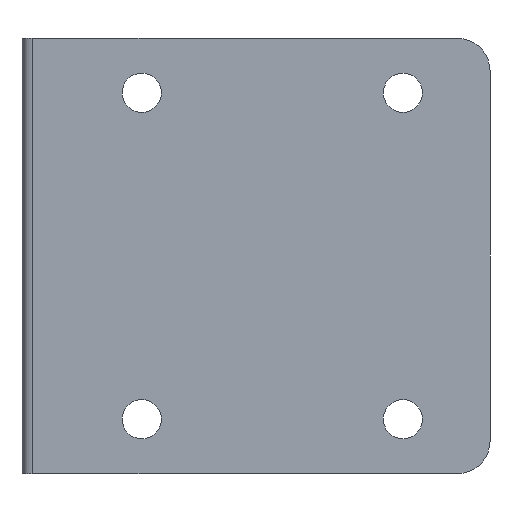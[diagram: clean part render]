
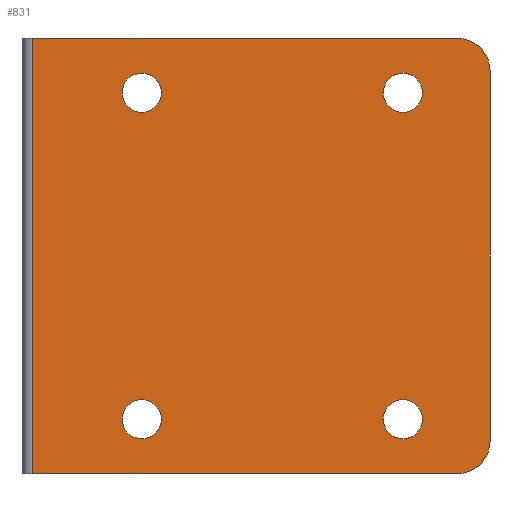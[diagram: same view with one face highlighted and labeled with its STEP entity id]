
A CAD part, front view. The second image highlights one B-rep face of the part: STEP entity #831.
In plain terms, the highlighted planar face has unit normal (0, -1, 0).
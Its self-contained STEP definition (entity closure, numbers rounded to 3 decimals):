
#1 = FACE_BOUND ( 'NONE', #753, .T. ) ;
#3 = DIRECTION ( 'NONE',  ( -1., 0., 0. ) ) ;
#23 = ORIENTED_EDGE ( 'NONE', *, *, #1183, .T. ) ;
#29 = CARTESIAN_POINT ( 'NONE',  ( -21.5, 0., 20. ) ) ;
#66 = ORIENTED_EDGE ( 'NONE', *, *, #839, .T. ) ;
#68 = EDGE_CURVE ( 'NONE', #667, #1091, #334, .T. ) ;
#72 = DIRECTION ( 'NONE',  ( 0., -1., 0. ) ) ;
#77 = CARTESIAN_POINT ( 'NONE',  ( 18.5, 0., -17. ) ) ;
#82 = CARTESIAN_POINT ( 'NONE',  ( -20.5, 0., 20. ) ) ;
#86 = EDGE_CURVE ( 'NONE', #329, #1015, #1115, .T. ) ;
#87 = CARTESIAN_POINT ( 'NONE',  ( -10.5, 0., -16.8 ) ) ;
#91 = EDGE_LOOP ( 'NONE', ( #419, #526 ) ) ;
#101 = DIRECTION ( 'NONE',  ( 0., 1., 0. ) ) ;
#110 = VECTOR ( 'NONE', #444, 1000. ) ;
#113 = CARTESIAN_POINT ( 'NONE',  ( 21.5, 0., -17. ) ) ;
#133 = VERTEX_POINT ( 'NONE', #87 ) ;
#140 = CARTESIAN_POINT ( 'NONE',  ( 13.5, 0., 13.2 ) ) ;
#153 = EDGE_LOOP ( 'NONE', ( #182, #66 ) ) ;
#175 = CARTESIAN_POINT ( 'NONE',  ( -10.5, 0., 13.2 ) ) ;
#179 = VERTEX_POINT ( 'NONE', #1110 ) ;
#182 = ORIENTED_EDGE ( 'NONE', *, *, #68, .T. ) ;
#189 = CARTESIAN_POINT ( 'NONE',  ( -20.5, 0., -20. ) ) ;
#207 = EDGE_CURVE ( 'NONE', #717, #1181, #774, .T. ) ;
#210 = PLANE ( 'NONE',  #1014 ) ;
#212 = DIRECTION ( 'NONE',  ( 0., 0., 1. ) ) ;
#232 = EDGE_LOOP ( 'NONE', ( #23, #283 ) ) ;
#260 = VECTOR ( 'NONE', #1217, 1000. ) ;
#272 = CARTESIAN_POINT ( 'NONE',  ( -10.5, 0., 15. ) ) ;
#273 = CARTESIAN_POINT ( 'NONE',  ( 21.5, 0., 17. ) ) ;
#283 = ORIENTED_EDGE ( 'NONE', *, *, #387, .T. ) ;
#287 = DIRECTION ( 'NONE',  ( 0., 1., 0. ) ) ;
#304 = DIRECTION ( 'NONE',  ( 0., 1., 0. ) ) ;
#313 = CIRCLE ( 'NONE', #808, 1.8 ) ;
#329 = VERTEX_POINT ( 'NONE', #1017 ) ;
#330 = CIRCLE ( 'NONE', #1288, 1.8 ) ;
#334 = CIRCLE ( 'NONE', #852, 1.8 ) ;
#336 = ORIENTED_EDGE ( 'NONE', *, *, #997, .T. ) ;
#342 = CARTESIAN_POINT ( 'NONE',  ( 13.5, 0., 16.8 ) ) ;
#345 = CIRCLE ( 'NONE', #688, 3. ) ;
#354 = AXIS2_PLACEMENT_3D ( 'NONE', #1276, #361, #964 ) ;
#361 = DIRECTION ( 'NONE',  ( 0., -1., 0. ) ) ;
#370 = DIRECTION ( 'NONE',  ( 0., 0., 1. ) ) ;
#378 = CARTESIAN_POINT ( 'NONE',  ( -10.5, 0., 16.8 ) ) ;
#382 = ORIENTED_EDGE ( 'NONE', *, *, #86, .T. ) ;
#387 = EDGE_CURVE ( 'NONE', #429, #466, #1323, .T. ) ;
#397 = DIRECTION ( 'NONE',  ( 0., 0., -1. ) ) ;
#401 = CIRCLE ( 'NONE', #866, 1.8 ) ;
#413 = CARTESIAN_POINT ( 'NONE',  ( -10.5, 0., 15. ) ) ;
#419 = ORIENTED_EDGE ( 'NONE', *, *, #790, .T. ) ;
#428 = DIRECTION ( 'NONE',  ( 0., 0., 1. ) ) ;
#429 = VERTEX_POINT ( 'NONE', #140 ) ;
#432 = FACE_BOUND ( 'NONE', #153, .T. ) ;
#444 = DIRECTION ( 'NONE',  ( 1., 0., 0. ) ) ;
#446 = ORIENTED_EDGE ( 'NONE', *, *, #449, .F. ) ;
#449 = EDGE_CURVE ( 'NONE', #717, #1274, #760, .T. ) ;
#466 = VERTEX_POINT ( 'NONE', #342 ) ;
#473 = CARTESIAN_POINT ( 'NONE',  ( -20.5, 0., -20. ) ) ;
#486 = CARTESIAN_POINT ( 'NONE',  ( -10.5, 0., -13.2 ) ) ;
#500 = DIRECTION ( 'NONE',  ( 0., 0., 1. ) ) ;
#501 = CARTESIAN_POINT ( 'NONE',  ( 13.5, 0., -15. ) ) ;
#506 = CARTESIAN_POINT ( 'NONE',  ( -10.5, 0., -15. ) ) ;
#510 = DIRECTION ( 'NONE',  ( 0., 0., -1. ) ) ;
#526 = ORIENTED_EDGE ( 'NONE', *, *, #1209, .T. ) ;
#535 = ORIENTED_EDGE ( 'NONE', *, *, #1306, .T. ) ;
#543 = CIRCLE ( 'NONE', #354, 3. ) ;
#547 = FACE_BOUND ( 'NONE', #91, .T. ) ;
#575 = AXIS2_PLACEMENT_3D ( 'NONE', #1264, #1253, #428 ) ;
#591 = DIRECTION ( 'NONE',  ( 0., 1., 0. ) ) ;
#599 = DIRECTION ( 'NONE',  ( 0., 0., 1. ) ) ;
#606 = DIRECTION ( 'NONE',  ( 0., 0., 1. ) ) ;
#634 = EDGE_CURVE ( 'NONE', #179, #912, #345, .T. ) ;
#649 = VERTEX_POINT ( 'NONE', #273 ) ;
#667 = VERTEX_POINT ( 'NONE', #378 ) ;
#677 = DIRECTION ( 'NONE',  ( 0., 0., 1. ) ) ;
#686 = DIRECTION ( 'NONE',  ( 0., 0., 1. ) ) ;
#688 = AXIS2_PLACEMENT_3D ( 'NONE', #77, #72, #1289 ) ;
#698 = CARTESIAN_POINT ( 'NONE',  ( 18.5, 0., 20. ) ) ;
#707 = CARTESIAN_POINT ( 'NONE',  ( 0., 0., 0. ) ) ;
#709 = CARTESIAN_POINT ( 'NONE',  ( -10.5, 0., -15. ) ) ;
#717 = VERTEX_POINT ( 'NONE', #82 ) ;
#721 = ORIENTED_EDGE ( 'NONE', *, *, #756, .F. ) ;
#737 = CIRCLE ( 'NONE', #1027, 1.8 ) ;
#753 = EDGE_LOOP ( 'NONE', ( #382, #535 ) ) ;
#756 = EDGE_CURVE ( 'NONE', #649, #912, #1307, .T. ) ;
#760 = LINE ( 'NONE', #29, #110 ) ;
#774 = LINE ( 'NONE', #189, #260 ) ;
#780 = ORIENTED_EDGE ( 'NONE', *, *, #821, .F. ) ;
#790 = EDGE_CURVE ( 'NONE', #1163, #133, #330, .T. ) ;
#808 = AXIS2_PLACEMENT_3D ( 'NONE', #413, #101, #500 ) ;
#818 = FACE_OUTER_BOUND ( 'NONE', #953, .T. ) ;
#821 = EDGE_CURVE ( 'NONE', #179, #1181, #1114, .T. ) ;
#831 = ADVANCED_FACE ( 'NONE', ( #547, #432, #1252, #1, #818 ), #210, .T. ) ;
#834 = CIRCLE ( 'NONE', #934, 1.8 ) ;
#839 = EDGE_CURVE ( 'NONE', #1091, #667, #313, .T. ) ;
#841 = VECTOR ( 'NONE', #3, 1000. ) ;
#852 = AXIS2_PLACEMENT_3D ( 'NONE', #272, #287, #686 ) ;
#866 = AXIS2_PLACEMENT_3D ( 'NONE', #709, #304, #212 ) ;
#888 = ORIENTED_EDGE ( 'NONE', *, *, #207, .T. ) ;
#911 = DIRECTION ( 'NONE',  ( 0., -1., 0. ) ) ;
#912 = VERTEX_POINT ( 'NONE', #113 ) ;
#934 = AXIS2_PLACEMENT_3D ( 'NONE', #501, #1224, #599 ) ;
#953 = EDGE_LOOP ( 'NONE', ( #446, #888, #780, #1301, #721, #336 ) ) ;
#964 = DIRECTION ( 'NONE',  ( 0., 0., -1. ) ) ;
#970 = DIRECTION ( 'NONE',  ( 0., 1., 0. ) ) ;
#997 = EDGE_CURVE ( 'NONE', #649, #1274, #543, .T. ) ;
#1000 = DIRECTION ( 'NONE',  ( 0., 1., 0. ) ) ;
#1009 = CARTESIAN_POINT ( 'NONE',  ( 21.5, 0., 20. ) ) ;
#1014 = AXIS2_PLACEMENT_3D ( 'NONE', #707, #911, #397 ) ;
#1015 = VERTEX_POINT ( 'NONE', #1079 ) ;
#1017 = CARTESIAN_POINT ( 'NONE',  ( 13.5, 0., -13.2 ) ) ;
#1027 = AXIS2_PLACEMENT_3D ( 'NONE', #1205, #591, #677 ) ;
#1035 = AXIS2_PLACEMENT_3D ( 'NONE', #1081, #970, #370 ) ;
#1079 = CARTESIAN_POINT ( 'NONE',  ( 13.5, 0., -16.8 ) ) ;
#1081 = CARTESIAN_POINT ( 'NONE',  ( 13.5, 0., -15. ) ) ;
#1091 = VERTEX_POINT ( 'NONE', #175 ) ;
#1110 = CARTESIAN_POINT ( 'NONE',  ( 18.5, 0., -20. ) ) ;
#1114 = LINE ( 'NONE', #1206, #841 ) ;
#1115 = CIRCLE ( 'NONE', #1035, 1.8 ) ;
#1163 = VERTEX_POINT ( 'NONE', #486 ) ;
#1181 = VERTEX_POINT ( 'NONE', #473 ) ;
#1183 = EDGE_CURVE ( 'NONE', #466, #429, #737, .T. ) ;
#1205 = CARTESIAN_POINT ( 'NONE',  ( 13.5, 0., 15. ) ) ;
#1206 = CARTESIAN_POINT ( 'NONE',  ( -21.5, 0., -20. ) ) ;
#1209 = EDGE_CURVE ( 'NONE', #133, #1163, #401, .T. ) ;
#1217 = DIRECTION ( 'NONE',  ( 0., 0., -1. ) ) ;
#1224 = DIRECTION ( 'NONE',  ( 0., 1., 0. ) ) ;
#1252 = FACE_BOUND ( 'NONE', #232, .T. ) ;
#1253 = DIRECTION ( 'NONE',  ( 0., 1., 0. ) ) ;
#1264 = CARTESIAN_POINT ( 'NONE',  ( 13.5, 0., 15. ) ) ;
#1270 = VECTOR ( 'NONE', #510, 1000. ) ;
#1274 = VERTEX_POINT ( 'NONE', #698 ) ;
#1276 = CARTESIAN_POINT ( 'NONE',  ( 18.5, 0., 17. ) ) ;
#1288 = AXIS2_PLACEMENT_3D ( 'NONE', #506, #1000, #606 ) ;
#1289 = DIRECTION ( 'NONE',  ( 0., 0., -1. ) ) ;
#1301 = ORIENTED_EDGE ( 'NONE', *, *, #634, .T. ) ;
#1306 = EDGE_CURVE ( 'NONE', #1015, #329, #834, .T. ) ;
#1307 = LINE ( 'NONE', #1009, #1270 ) ;
#1323 = CIRCLE ( 'NONE', #575, 1.8 ) ;
